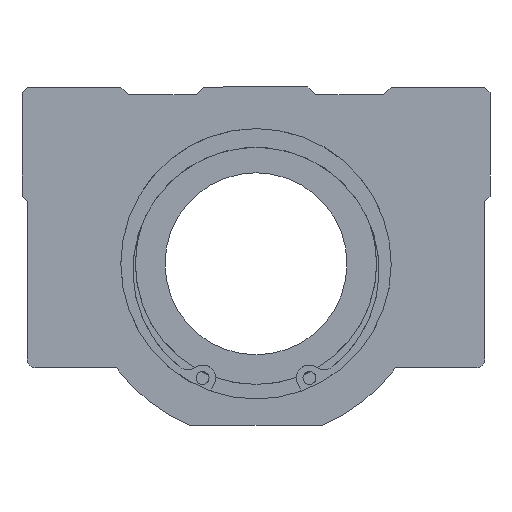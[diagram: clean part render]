
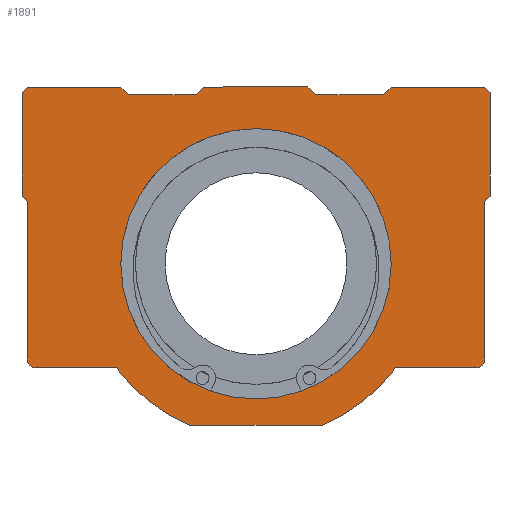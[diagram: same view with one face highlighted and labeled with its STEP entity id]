
A CAD part, left-side view. The second image highlights one B-rep face of the part: STEP entity #1891.
In plain terms, the highlighted planar face has unit normal (-1, 0, 0).
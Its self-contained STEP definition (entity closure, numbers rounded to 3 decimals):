
#1279=CARTESIAN_POINT('',(0.0,26.0,0.));
#1280=VERTEX_POINT('',#1279);
#1281=CARTESIAN_POINT('',(0.0,0.0,0.0));
#1282=DIRECTION('',(1.0,0.0,0.0));
#1283=DIRECTION('',(0.0,-1.0,0.0));
#1284=AXIS2_PLACEMENT_3D('',#1281,#1282,#1283);
#1285=CIRCLE('',#1284,26.0);
#1286=EDGE_CURVE('',#1280,#1280,#1285,.T.);
#1302=CARTESIAN_POINT('',(0.0,11.5,32.5));
#1303=VERTEX_POINT('',#1302);
#1304=CARTESIAN_POINT('',(0.0,10.,34.));
#1305=VERTEX_POINT('',#1304);
#1306=CARTESIAN_POINT('',(0.0,11.5,32.5));
#1307=DIRECTION('',(0.0,-0.707,0.707));
#1308=VECTOR('',#1307,2.121);
#1309=LINE('',#1306,#1308);
#1310=EDGE_CURVE('',#1303,#1305,#1309,.T.);
#1352=CARTESIAN_POINT('',(0.0,-10.,34.));
#1353=VERTEX_POINT('',#1352);
#1360=CARTESIAN_POINT('',(0.0,-11.5,32.5));
#1361=VERTEX_POINT('',#1360);
#1362=CARTESIAN_POINT('',(0.0,-10.,34.));
#1363=DIRECTION('',(0.0,-0.707,-0.707));
#1364=VECTOR('',#1363,2.121);
#1365=LINE('',#1362,#1364);
#1366=EDGE_CURVE('',#1353,#1361,#1365,.T.);
#1389=CARTESIAN_POINT('',(0.0,10.,34.));
#1390=DIRECTION('',(0.0,-1.0,0.0));
#1391=VECTOR('',#1390,20.);
#1392=LINE('',#1389,#1391);
#1393=EDGE_CURVE('',#1305,#1353,#1392,.T.);
#1413=CARTESIAN_POINT('',(0.0,24.5,32.5));
#1414=VERTEX_POINT('',#1413);
#1421=CARTESIAN_POINT('',(0.0,24.5,32.5));
#1422=DIRECTION('',(0.0,-1.0,0.0));
#1423=VECTOR('',#1422,13.);
#1424=LINE('',#1421,#1423);
#1425=EDGE_CURVE('',#1414,#1303,#1424,.T.);
#1436=CARTESIAN_POINT('',(0.0,-24.5,32.5));
#1437=VERTEX_POINT('',#1436);
#1438=CARTESIAN_POINT('',(0.0,-11.5,32.5));
#1439=DIRECTION('',(0.0,-1.0,0.0));
#1440=VECTOR('',#1439,13.);
#1441=LINE('',#1438,#1440);
#1442=EDGE_CURVE('',#1361,#1437,#1441,.T.);
#1477=CARTESIAN_POINT('',(0.0,42.5,-20.));
#1478=VERTEX_POINT('',#1477);
#1485=CARTESIAN_POINT('',(0.0,44.,-18.5));
#1486=VERTEX_POINT('',#1485);
#1487=CARTESIAN_POINT('',(0.0,42.5,-18.5));
#1488=DIRECTION('',(1.,0.0,0.0));
#1489=DIRECTION('',(0.0,0.707,-0.707));
#1490=AXIS2_PLACEMENT_3D('',#1487,#1488,#1489);
#1491=CIRCLE('',#1490,1.5);
#1492=EDGE_CURVE('',#1478,#1486,#1491,.T.);
#1517=CARTESIAN_POINT('',(0.0,26.875,-20.));
#1518=VERTEX_POINT('',#1517);
#1525=CARTESIAN_POINT('',(0.0,26.875,-20.));
#1526=DIRECTION('',(0.0,1.0,0.0));
#1527=VECTOR('',#1526,15.625);
#1528=LINE('',#1525,#1527);
#1529=EDGE_CURVE('',#1518,#1478,#1528,.T.);
#1723=CARTESIAN_POINT('',(0.0,-44.,-18.5));
#1724=VERTEX_POINT('',#1723);
#1731=CARTESIAN_POINT('',(0.0,-42.5,-20.));
#1732=VERTEX_POINT('',#1731);
#1733=CARTESIAN_POINT('',(0.0,-42.5,-18.5));
#1734=DIRECTION('',(1.,0.0,0.0));
#1735=DIRECTION('',(0.0,-0.707,-0.707));
#1736=AXIS2_PLACEMENT_3D('',#1733,#1734,#1735);
#1737=CIRCLE('',#1736,1.5);
#1738=EDGE_CURVE('',#1724,#1732,#1737,.T.);
#1749=CARTESIAN_POINT('',(0.0,0.,4.053));
#1750=DIRECTION('',(1.0,0.0,0.0));
#1751=DIRECTION('',(0.0,0.0,-1.0));
#1752=AXIS2_PLACEMENT_3D('',#1749,#1750,#1751);
#1753=PLANE('',#1752);
#1754=ORIENTED_EDGE('',*,*,#1492,.F.);
#1755=ORIENTED_EDGE('',*,*,#1529,.F.);
#1756=CARTESIAN_POINT('',(0.0,12.698,-31.));
#1757=VERTEX_POINT('',#1756);
#1758=CARTESIAN_POINT('',(0.0,0.0,0.0));
#1759=DIRECTION('',(1.,0.0,0.0));
#1760=DIRECTION('',(0.0,0.379,-0.925));
#1761=AXIS2_PLACEMENT_3D('',#1758,#1759,#1760);
#1762=CIRCLE('',#1761,33.5);
#1763=EDGE_CURVE('',#1757,#1518,#1762,.T.);
#1764=ORIENTED_EDGE('',*,*,#1763,.F.);
#1765=CARTESIAN_POINT('',(0.0,-12.698,-31.));
#1766=VERTEX_POINT('',#1765);
#1767=CARTESIAN_POINT('',(0.0,-12.698,-31.));
#1768=DIRECTION('',(0.0,1.0,0.0));
#1769=VECTOR('',#1768,25.397);
#1770=LINE('',#1767,#1769);
#1771=EDGE_CURVE('',#1766,#1757,#1770,.T.);
#1772=ORIENTED_EDGE('',*,*,#1771,.F.);
#1773=CARTESIAN_POINT('',(0.0,-26.875,-20.));
#1774=VERTEX_POINT('',#1773);
#1775=CARTESIAN_POINT('',(0.0,0.0,0.0));
#1776=DIRECTION('',(1.,0.0,0.0));
#1777=DIRECTION('',(0.0,0.379,-0.925));
#1778=AXIS2_PLACEMENT_3D('',#1775,#1776,#1777);
#1779=CIRCLE('',#1778,33.5);
#1780=EDGE_CURVE('',#1774,#1766,#1779,.T.);
#1781=ORIENTED_EDGE('',*,*,#1780,.F.);
#1782=CARTESIAN_POINT('',(0.0,-42.5,-20.));
#1783=DIRECTION('',(0.0,1.0,0.0));
#1784=VECTOR('',#1783,15.625);
#1785=LINE('',#1782,#1784);
#1786=EDGE_CURVE('',#1732,#1774,#1785,.T.);
#1787=ORIENTED_EDGE('',*,*,#1786,.F.);
#1788=ORIENTED_EDGE('',*,*,#1738,.F.);
#1789=CARTESIAN_POINT('',(0.0,-44.,12.));
#1790=VERTEX_POINT('',#1789);
#1791=CARTESIAN_POINT('',(0.0,-44.,12.));
#1792=DIRECTION('',(0.0,0.0,-1.0));
#1793=VECTOR('',#1792,30.5);
#1794=LINE('',#1791,#1793);
#1795=EDGE_CURVE('',#1790,#1724,#1794,.T.);
#1796=ORIENTED_EDGE('',*,*,#1795,.F.);
#1797=CARTESIAN_POINT('',(0.0,-45.0,13.));
#1798=VERTEX_POINT('',#1797);
#1799=CARTESIAN_POINT('',(0.0,-45.0,13.));
#1800=DIRECTION('',(0.0,0.707,-0.707));
#1801=VECTOR('',#1800,1.414);
#1802=LINE('',#1799,#1801);
#1803=EDGE_CURVE('',#1798,#1790,#1802,.T.);
#1804=ORIENTED_EDGE('',*,*,#1803,.F.);
#1805=CARTESIAN_POINT('',(0.0,-45.0,33.));
#1806=VERTEX_POINT('',#1805);
#1807=CARTESIAN_POINT('',(0.0,-45.0,33.));
#1808=DIRECTION('',(0.0,0.0,-1.0));
#1809=VECTOR('',#1808,20.);
#1810=LINE('',#1807,#1809);
#1811=EDGE_CURVE('',#1806,#1798,#1810,.T.);
#1812=ORIENTED_EDGE('',*,*,#1811,.F.);
#1813=CARTESIAN_POINT('',(0.0,-44.0,34.));
#1814=VERTEX_POINT('',#1813);
#1815=CARTESIAN_POINT('',(0.0,-44.0,34.));
#1816=DIRECTION('',(0.0,-0.707,-0.707));
#1817=VECTOR('',#1816,1.414);
#1818=LINE('',#1815,#1817);
#1819=EDGE_CURVE('',#1814,#1806,#1818,.T.);
#1820=ORIENTED_EDGE('',*,*,#1819,.F.);
#1821=CARTESIAN_POINT('',(0.0,-26.,34.));
#1822=VERTEX_POINT('',#1821);
#1823=CARTESIAN_POINT('',(0.0,-26.,34.));
#1824=DIRECTION('',(0.0,-1.0,0.0));
#1825=VECTOR('',#1824,18.);
#1826=LINE('',#1823,#1825);
#1827=EDGE_CURVE('',#1822,#1814,#1826,.T.);
#1828=ORIENTED_EDGE('',*,*,#1827,.F.);
#1829=CARTESIAN_POINT('',(0.0,-24.5,32.5));
#1830=DIRECTION('',(0.0,-0.707,0.707));
#1831=VECTOR('',#1830,2.121);
#1832=LINE('',#1829,#1831);
#1833=EDGE_CURVE('',#1437,#1822,#1832,.T.);
#1834=ORIENTED_EDGE('',*,*,#1833,.F.);
#1835=ORIENTED_EDGE('',*,*,#1442,.F.);
#1836=ORIENTED_EDGE('',*,*,#1366,.F.);
#1837=ORIENTED_EDGE('',*,*,#1393,.F.);
#1838=ORIENTED_EDGE('',*,*,#1310,.F.);
#1839=ORIENTED_EDGE('',*,*,#1425,.F.);
#1840=CARTESIAN_POINT('',(0.0,26.,34.));
#1841=VERTEX_POINT('',#1840);
#1842=CARTESIAN_POINT('',(0.0,26.,34.));
#1843=DIRECTION('',(0.0,-0.707,-0.707));
#1844=VECTOR('',#1843,2.121);
#1845=LINE('',#1842,#1844);
#1846=EDGE_CURVE('',#1841,#1414,#1845,.T.);
#1847=ORIENTED_EDGE('',*,*,#1846,.F.);
#1848=CARTESIAN_POINT('',(0.0,44.0,34.));
#1849=VERTEX_POINT('',#1848);
#1850=CARTESIAN_POINT('',(0.0,44.0,34.));
#1851=DIRECTION('',(0.0,-1.0,0.0));
#1852=VECTOR('',#1851,18.);
#1853=LINE('',#1850,#1852);
#1854=EDGE_CURVE('',#1849,#1841,#1853,.T.);
#1855=ORIENTED_EDGE('',*,*,#1854,.F.);
#1856=CARTESIAN_POINT('',(0.0,45.0,33.));
#1857=VERTEX_POINT('',#1856);
#1858=CARTESIAN_POINT('',(0.0,45.0,33.));
#1859=DIRECTION('',(0.0,-0.707,0.707));
#1860=VECTOR('',#1859,1.414);
#1861=LINE('',#1858,#1860);
#1862=EDGE_CURVE('',#1857,#1849,#1861,.T.);
#1863=ORIENTED_EDGE('',*,*,#1862,.F.);
#1864=CARTESIAN_POINT('',(0.0,45.0,13.));
#1865=VERTEX_POINT('',#1864);
#1866=CARTESIAN_POINT('',(0.0,45.0,13.));
#1867=DIRECTION('',(0.0,0.0,1.0));
#1868=VECTOR('',#1867,20.);
#1869=LINE('',#1866,#1868);
#1870=EDGE_CURVE('',#1865,#1857,#1869,.T.);
#1871=ORIENTED_EDGE('',*,*,#1870,.F.);
#1872=CARTESIAN_POINT('',(0.0,44.,12.));
#1873=VERTEX_POINT('',#1872);
#1874=CARTESIAN_POINT('',(0.0,44.,12.));
#1875=DIRECTION('',(0.0,0.707,0.707));
#1876=VECTOR('',#1875,1.414);
#1877=LINE('',#1874,#1876);
#1878=EDGE_CURVE('',#1873,#1865,#1877,.T.);
#1879=ORIENTED_EDGE('',*,*,#1878,.F.);
#1880=CARTESIAN_POINT('',(0.0,44.,-18.5));
#1881=DIRECTION('',(0.0,0.0,1.0));
#1882=VECTOR('',#1881,30.5);
#1883=LINE('',#1880,#1882);
#1884=EDGE_CURVE('',#1486,#1873,#1883,.T.);
#1885=ORIENTED_EDGE('',*,*,#1884,.F.);
#1886=EDGE_LOOP('',(#1754,#1755,#1764,#1772,#1781,#1787,#1788,#1796,#1804,#1812,#1820,#1828,#1834,#1835,#1836,#1837,#1838,#1839,#1847,#1855,#1863,#1871,#1879,#1885));
#1887=FACE_OUTER_BOUND('',#1886,.T.);
#1888=ORIENTED_EDGE('',*,*,#1286,.T.);
#1889=EDGE_LOOP('',(#1888));
#1890=FACE_BOUND('',#1889,.T.);
#1891=ADVANCED_FACE('',(#1887,#1890),#1753,.F.);
